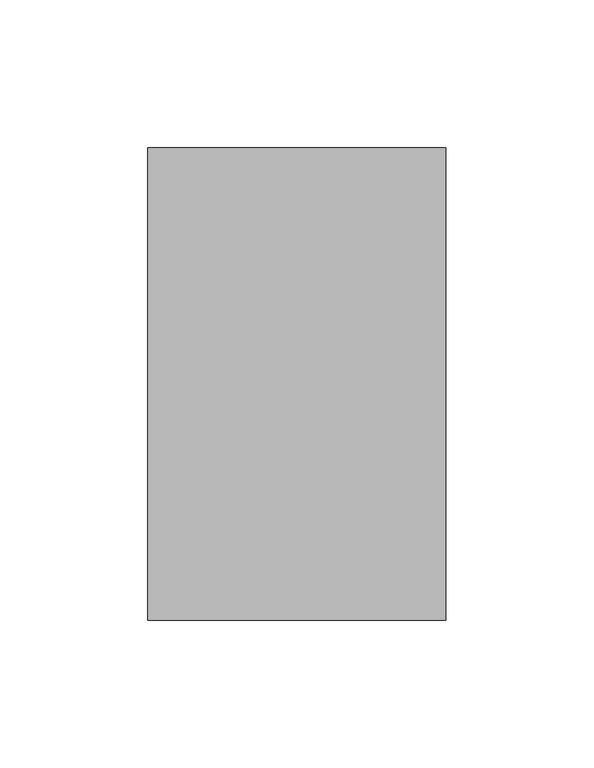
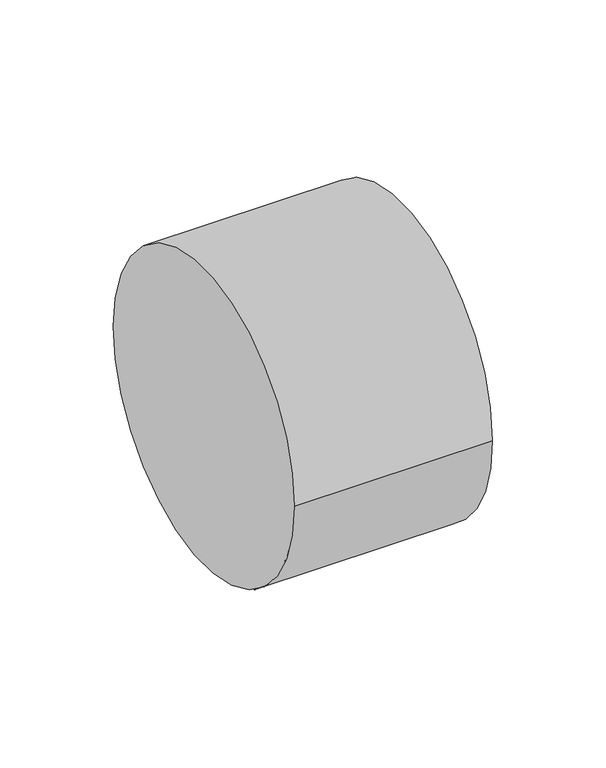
"""IFC4 building model written with IfcOpenShell, lengths in millimetres: pipe fitting geometry, Pipelife - Pragma OD - Korek kanalizacyjny : Pipelife - Pragma OD - Korek kanalizacyjny."""

from ifc_helpers import new_model, si_unit, point, frame, origin, origin_2d, place, context, project, spatial, circle_curve, trimmed, segment, composite_curve, outline, extrude, source, transform, mapped, element, save


def pipe_fitting_63e97548(model_context):
    return source(origin(), model_context, "Body", "SweptSolid", [
        extrude(outline(composite_curve([segment(trimmed(circle_curve(origin_2d(), 80.0), [point((-80.0, 0.0))], [point((80.0, 0.0))], False, "CARTESIAN"), True, "CONTINUOUS"), segment(trimmed(circle_curve(origin_2d(), 80.0), [point((80.0, 0.0))], [point((-80.0, 0.0))], False, "CARTESIAN"), True, "CONTINUOUS")], self_intersect=False)), frame((-94.0, 0.0, 0.0), z_axis=(1.0, 0.0, 0.0), x_axis=(0.0, 1.0, 0.0)), (0.0, 0.0, 1.0), 101.0),
    ])


if __name__ == "__main__":
    model = new_model("IFC4")
    model_context = context("Model", 3, world=origin())
    ifc_project = project(units=[si_unit("LENGTHUNIT", "METRE", prefix="MILLI")], contexts=[model_context])
    site = spatial("IfcSite", under=ifc_project)
    building = spatial("IfcBuilding", under=site)
    placement = place(None, origin())
    pipe_fitting_shape = pipe_fitting_63e97548(model_context)
    element("IfcPipeFitting", 1, ObjectType="Pipelife - Pragma OD - Korek kanalizacyjny : Pipelife - Pragma OD - Korek kanalizacyjny", at=placement, inside=building, context=model_context, shape_type="MappedRepresentation", body=[
        mapped(pipe_fitting_shape, transform((0.0, 0.0, 0.0), x_axis=(1.0, 0.0, 0.0), y_axis=(0.0, 1.0, 0.0), z_axis=(0.0, 0.0, 1.0))),
    ])
    save(model, "model.ifc")
